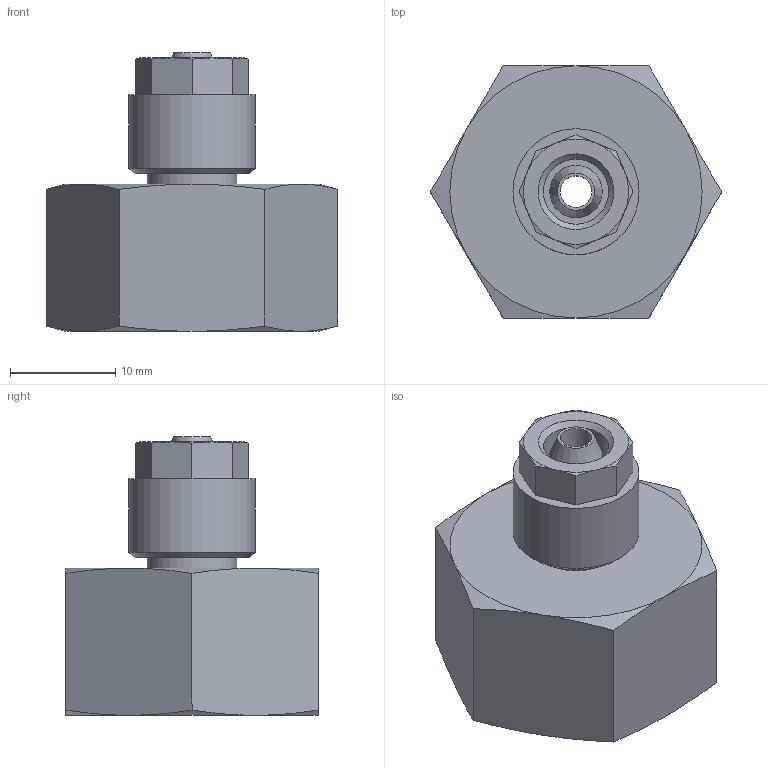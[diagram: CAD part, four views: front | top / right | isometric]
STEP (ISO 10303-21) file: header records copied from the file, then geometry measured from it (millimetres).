
FILE_DESCRIPTION(/* description */ (''),/* implementation_level */ '2;1');
FILE_NAME(/* name */ '10314_302_64_G12_29.05.17',/* time_stamp */ '2017-05-29T11:11:52+02:00',/* author */ (''),/* organization */ (''),/* preprocessor_version */ 'ST-DEVELOPER v16.5',/* originating_system */ 'HiCAD 2016 2102.1 Build 498',/* authorisation */ '');
FILE_SCHEMA (('AUTOMOTIVE_DESIGN { 1 0 10303 214 1 1 1 1 }'));
Length unit declared in the file: millimetre
Products named in the file (3): Root; 17005; R10314
Assembly tree (2 placements, depth 2):
  Root
    17005
    R10314
Bounding box: 27.71 x 24 x 26.5 mm (x, y, z)
Volume: 4838.3 mm3; surface area: 4001.7 mm2
Topology: 2 solids, 2 shells, 64 faces, 142 edges, 87 vertices
Faces by surface type: cone 31, plane 23, cylinder 9, torus 1
Full cylindrical faces by diameter (mm): 3 x1, 4.5 x1, 6 x1, 6.2 x1, 8.5 x1, 8.773 x1, 10 x1, 12 x1, 18.631 x1
Entity records: 2753 total; most frequent: DIRECTION 334, CARTESIAN_POINT 254, PRESENTATION_STYLE_ASSIGNMENT 222, COLOUR_RGB 221, DRAUGHTING_PRE_DEFINED_CURVE_FONT 220, CURVE_STYLE 220, OVER_RIDING_STYLED_ITEM 220, ORIENTED_EDGE 220
